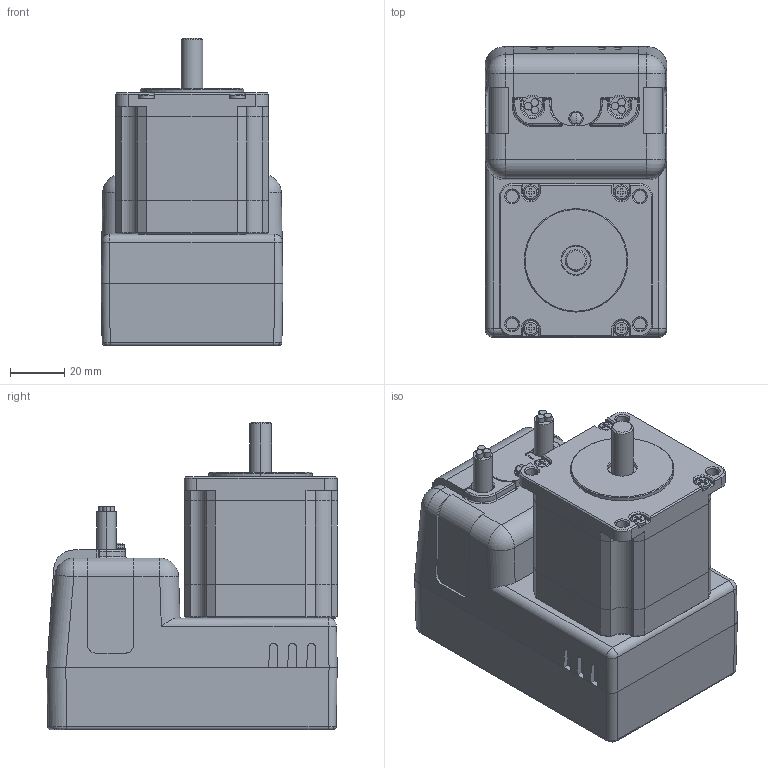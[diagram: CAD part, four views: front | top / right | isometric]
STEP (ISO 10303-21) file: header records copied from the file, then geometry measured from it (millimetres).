
FILE_DESCRIPTION (( 'STEP AP203' ), '1' );
FILE_NAME ('CM2-56B10A.STEP', '2010-05-17T19:23:03', ( 'render' ), ( '' ), 'SwSTEP 2.0', 'SolidWorks 2009', '' );
FILE_SCHEMA (( 'CONFIG_CONTROL_DESIGN' ));
Length unit declared in the file: millimetre
Products named in the file (1): CM2-56B10A
Bounding box: 67 x 107 x 113.2 mm (x, y, z)
Volume: 513218.7 mm3; surface area: 82808.3 mm2
Topology: 19 solids, 19 shells, 534 faces, 1310 edges, 818 vertices
Faces by surface type: plane 236, cylinder 214, torus 35, cone 26, sphere 15, bspline 8
Entity records: 15833 total; most frequent: CARTESIAN_POINT 3086, DIRECTION 2721, ORIENTED_EDGE 2608, EDGE_CURVE 1304, AXIS2_PLACEMENT_3D 975, VERTEX_POINT 818, LINE 771, VECTOR 771
